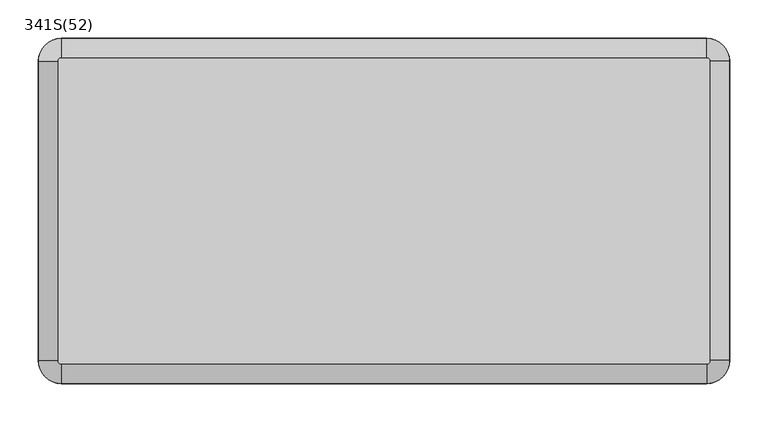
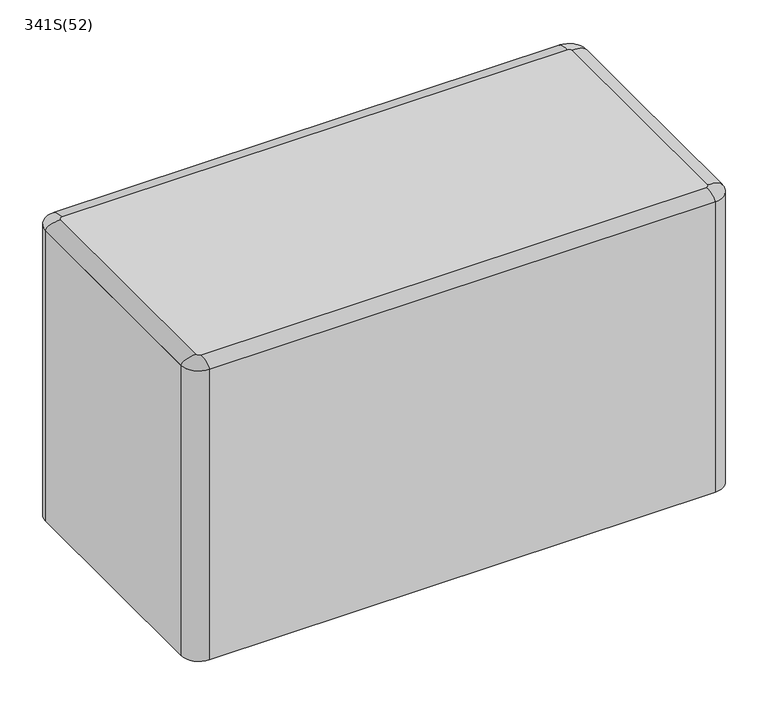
"""IFC4 building model written with IfcOpenShell, lengths in millimetres: furniture geometry, Bit Stick : 341S(52)."""

from ifc_helpers import new_model, si_unit, point, frame, frame_2d, origin, origin_with_axes, place, context, project, spatial, polyline, circle_curve, ellipse_curve, trimmed, segment, composite_curve, outline, extrude, source, transform, mapped, element, save
from ifc_brep_helpers import plane_surface, revolved_surface, extruded_surface, advanced_brep


def furniture_341s_52_23bdaefc(model_context):
    return source(origin(), model_context, "Body", "SolidModel", [
        advanced_brep(
        [(-420.0, 200.0, 520.0), (-420.0, 225.0, 510.0), (-450.0, 195.0, 510.0), (-425.0, 195.0, 520.0), (-450.0, -195.0, 510.0), (-425.0, -195.0, 520.0), (-420.0, -225.0, 510.0), (-420.0, -200.0, 520.0), (420.0, -225.0, 510.0), (420.0, -200.0, 520.0), (450.0, -195.0, 510.0), (425.0, -195.0, 520.0), (450.0, 195.0, 510.0), (425.0, 195.0, 520.0), (420.0, 225.0, 510.0), (420.0, 200.0, 520.0)],
        [
            (0, 1, ellipse_curve(frame((-420.0, 200.0, 510.0), z_axis=(-1.0, 0.0, 0.0), x_axis=(0.0, 1.0, 0.0)), 25.0, 10.0)),
            (1, 2, circle_curve(frame((-420.0, 195.0, 510.0), z_axis=(0.0, 0.0, 1.0), x_axis=(0.0, 1.0, 0.0)), 30.0)),
            (2, 3, ellipse_curve(frame((-425.0, 195.0, 510.0), z_axis=(0.0, 1.0, 0.0), x_axis=(-1.0, 0.0, 0.0)), 25.0, 10.0)),
            (3, 0, circle_curve(frame((-420.0, 195.0, 520.0), z_axis=(0.0, 0.0, -1.0), x_axis=(0.0, 1.0, 0.0)), 5.0)),
            (2, 4),
            (4, 5, ellipse_curve(frame((-425.0, -195.0, 510.0), z_axis=(0.0, 1.0, 0.0), x_axis=(-1.0, 0.0, 0.0)), 25.0, 10.0)),
            (5, 3),
            (4, 6, circle_curve(frame((-420.0, -195.0, 510.0), z_axis=(0.0, 0.0, 1.0), x_axis=(-1.0, 0.0, 0.0)), 30.0)),
            (6, 7, ellipse_curve(frame((-420.0, -200.0, 510.0), z_axis=(-1.0, 0.0, 0.0), x_axis=(0.0, -1.0, 0.0)), 25.0, 10.0)),
            (7, 5, circle_curve(frame((-420.0, -195.0, 520.0), z_axis=(0.0, 0.0, -1.0), x_axis=(-1.0, 0.0, 0.0)), 5.0)),
            (6, 8),
            (8, 9, ellipse_curve(frame((420.0, -200.0, 510.0), z_axis=(-1.0, 0.0, 0.0), x_axis=(0.0, -1.0, 0.0)), 25.0, 10.0)),
            (9, 7),
            (8, 10, circle_curve(frame((420.0, -195.0, 510.0), z_axis=(0.0, 0.0, 1.0), x_axis=(0.0, -1.0, 0.0)), 30.0)),
            (10, 11, ellipse_curve(frame((425.0, -195.0, 510.0), z_axis=(0.0, -1.0, 0.0), x_axis=(1.0, 0.0, 0.0)), 25.0, 10.0)),
            (11, 9, circle_curve(frame((420.0, -195.0, 520.0), z_axis=(0.0, 0.0, -1.0), x_axis=(0.0, -1.0, 0.0)), 5.0)),
            (10, 12),
            (12, 13, ellipse_curve(frame((425.0, 195.0, 510.0), z_axis=(0.0, -1.0, 0.0), x_axis=(1.0, 0.0, 0.0)), 25.0, 10.0)),
            (13, 11),
            (12, 14, circle_curve(frame((420.0, 195.0, 510.0), z_axis=(0.0, 0.0, 1.0), x_axis=(1.0, 0.0, 0.0)), 30.0)),
            (14, 15, ellipse_curve(frame((420.0, 200.0, 510.0), z_axis=(1.0, 0.0, 0.0), x_axis=(0.0, 1.0, 0.0)), 25.0, 10.0)),
            (15, 13, circle_curve(frame((420.0, 195.0, 520.0), z_axis=(0.0, 0.0, -1.0), x_axis=(1.0, 0.0, 0.0)), 5.0)),
            (1, 14),
            (0, 15),
        ],
        [
            revolved_surface(trimmed(ellipse_curve(frame((-420.0, 200.0, 510.0), z_axis=(1.0, 0.0, 0.0), x_axis=(0.0, 1.0, 0.0)), 25.0, 10.0), [point((-420.0, 225.0, 510.0))], [point((-420.0, 200.0, 520.0))], True, "CARTESIAN"), (-420.0, 195.0, 510.0), (0.0, 0.0, 1.0)),
            extruded_surface(trimmed(ellipse_curve(frame((-425.0, -195.0, 510.0), z_axis=(0.0, 1.0, 0.0), x_axis=(-1.0, 0.0, 0.0)), 25.0, 10.0), [point((-450.0, -195.0, 510.0))], [point((-425.0, -195.0, 520.0))], True, "CARTESIAN"), (0.0, 390.0, 0.0), 390.0),
            revolved_surface(trimmed(ellipse_curve(frame((-425.0, -195.0, 510.0), z_axis=(0.0, 1.0, 0.0), x_axis=(-1.0, 0.0, 0.0)), 25.0, 10.0), [point((-450.0, -195.0, 510.0))], [point((-425.0, -195.0, 520.0))], True, "CARTESIAN"), (-420.0, -195.0, 510.0), (0.0, 0.0, 1.0)),
            extruded_surface(trimmed(ellipse_curve(frame((420.0, -200.0, 510.0), z_axis=(-1.0, 0.0, 0.0), x_axis=(0.0, -1.0, 0.0)), 25.0, 10.0), [point((420.0, -225.0, 510.0))], [point((420.0, -200.0, 520.0))], True, "CARTESIAN"), (-840.0, 0.0, 0.0), 840.0),
            revolved_surface(trimmed(ellipse_curve(frame((420.0, -200.0, 510.0), z_axis=(-1.0, 0.0, 0.0), x_axis=(0.0, -1.0, 0.0)), 25.0, 10.0), [point((420.0, -225.0, 510.0))], [point((420.0, -200.0, 520.0))], True, "CARTESIAN"), (420.0, -195.0, 510.0), (0.0, 0.0, 1.0)),
            extruded_surface(trimmed(ellipse_curve(frame((425.0, 195.0, 510.0), z_axis=(0.0, -1.0, 0.0), x_axis=(1.0, 0.0, 0.0)), 25.0, 10.0), [point((450.0, 195.0, 510.0))], [point((425.0, 195.0, 520.0))], True, "CARTESIAN"), (0.0, -390.0, 0.0), 390.0),
            revolved_surface(trimmed(ellipse_curve(frame((425.0, 195.0, 510.0), z_axis=(0.0, -1.0, 0.0), x_axis=(1.0, 0.0, 0.0)), 25.0, 10.0), [point((450.0, 195.0, 510.0))], [point((425.0, 195.0, 520.0))], True, "CARTESIAN"), (420.0, 195.0, 510.0), (0.0, 0.0, 1.0)),
            plane_surface(frame((420.0, 200.0, 510.0), z_axis=(0.0, 0.0, -1.0), x_axis=(-1.0, 0.0, 0.0))),
            extruded_surface(trimmed(ellipse_curve(frame((-420.0, 200.0, 510.0), z_axis=(1.0, 0.0, 0.0), x_axis=(0.0, 1.0, 0.0)), 25.0, 10.0), [point((-420.0, 225.0, 510.0))], [point((-420.0, 200.0, 520.0))], True, "CARTESIAN"), (840.0, 0.0, 0.0), 840.0),
            plane_surface(frame((-420.0, 200.0, 520.0), z_axis=(0.0, 0.0, 1.0), x_axis=(-1.0, 0.0, 0.0))),
        ],
        [
            (0, [[1, 2, 3, 4]]),
            (1, [[-3, 5, 6, 7]]),
            (2, [[-6, 8, 9, 10]]),
            (3, [[-9, 11, 12, 13]]),
            (4, [[-12, 14, 15, 16]]),
            (5, [[-15, 17, 18, 19]]),
            (6, [[-18, 20, 21, 22]]),
            (7, [[-2, 23, -20, -17, -14, -11, -8, -5]]),
            (8, [[-1, 24, -21, -23]]),
            (9, [[-4, -7, -10, -13, -16, -19, -22, -24]]),
        ],
    ),
        extrude(outline(composite_curve([segment(trimmed(circle_curve(frame_2d((420.0, 195.0)), 30.0), [point((420.0, 225.0))], [point((450.0, 195.0))], False, "CARTESIAN"), True, "CONTINUOUS"), segment(polyline([(450.0, 195.0), (450.0, -195.0)]), True, "CONTINUOUS"), segment(trimmed(circle_curve(frame_2d((420.0, -195.0)), 30.0), [point((450.0, -195.0))], [point((420.0, -225.0))], False, "CARTESIAN"), True, "CONTINUOUS"), segment(polyline([(420.0, -225.0), (-420.0, -225.0)]), True, "CONTINUOUS"), segment(trimmed(circle_curve(frame_2d((-420.0, -195.0)), 30.0), [point((-420.0, -225.0))], [point((-450.0, -195.0))], False, "CARTESIAN"), True, "CONTINUOUS"), segment(polyline([(-450.0, -195.0), (-450.0, 195.0)]), True, "CONTINUOUS"), segment(trimmed(circle_curve(frame_2d((-420.0, 195.0)), 30.0), [point((-450.0, 195.0))], [point((-420.0, 225.0))], False, "CARTESIAN"), True, "CONTINUOUS"), segment(polyline([(-420.0, 225.0), (420.0, 225.0)]), True, "CONTINUOUS")], self_intersect=False)), origin_with_axes(), (0.0, 0.0, 1.0), 510.0),
    ])


if __name__ == "__main__":
    model = new_model("IFC4")
    model_context = context("Model", 3, world=origin())
    ifc_project = project(units=[si_unit("LENGTHUNIT", "METRE", prefix="MILLI")], contexts=[model_context])
    site = spatial("IfcSite", under=ifc_project)
    building = spatial("IfcBuilding", under=site)
    placement = place(None, origin())
    furniture_341s_52_shape = furniture_341s_52_23bdaefc(model_context)
    element("IfcFurniture", 1, ObjectType="Bit Stick : 341S(52)", at=placement, inside=building, context=model_context, shape_type="MappedRepresentation", body=[
        mapped(furniture_341s_52_shape, transform((0.0, 0.0, 0.0), x_axis=(1.0, 0.0, 0.0), y_axis=(0.0, 1.0, 0.0), z_axis=(0.0, 0.0, 1.0))),
    ])
    save(model, "model.ifc")
